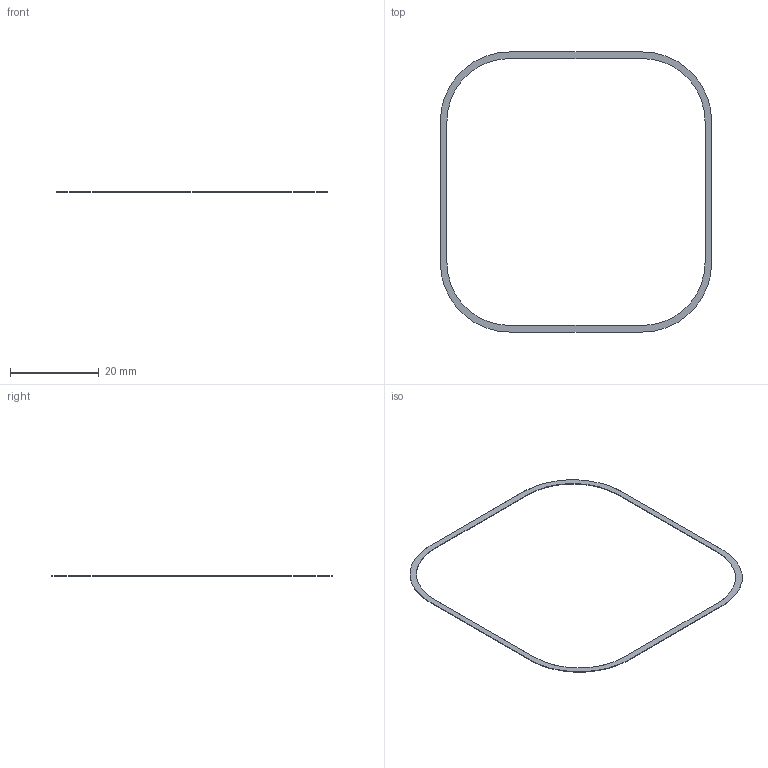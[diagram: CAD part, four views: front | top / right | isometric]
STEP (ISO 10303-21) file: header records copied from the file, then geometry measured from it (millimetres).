
FILE_DESCRIPTION(('Open CASCADE Model'),'2;1');
FILE_NAME('Open CASCADE Shape Model','2026-09-08T11:26:29',('Author'),( 'Open CASCADE'),'Open CASCADE STEP processor 7.8','build123d', 'Unknown');
FILE_SCHEMA(('AUTOMOTIVE_DESIGN { 1 0 10303 214 1 1 1 1 }'));
Length unit declared in the file: millimetre
Products named in the file (1): SOLID
Bounding box: 61.3 x 63.3 x 0.13 mm (x, y, z)
Volume: 42.4 mm3; surface area: 709.4 mm2
Topology: 1 solids, 1 shells, 18 faces, 48 edges, 32 vertices
Faces by surface type: plane 10, cylinder 8
Entity records: 1230 total; most frequent: CARTESIAN_POINT 243, DIRECTION 190, LINE 112, VECTOR 112, ORIENTED_EDGE 96, PCURVE 96, DEFINITIONAL_REPRESENTATION 96, EDGE_CURVE 48
